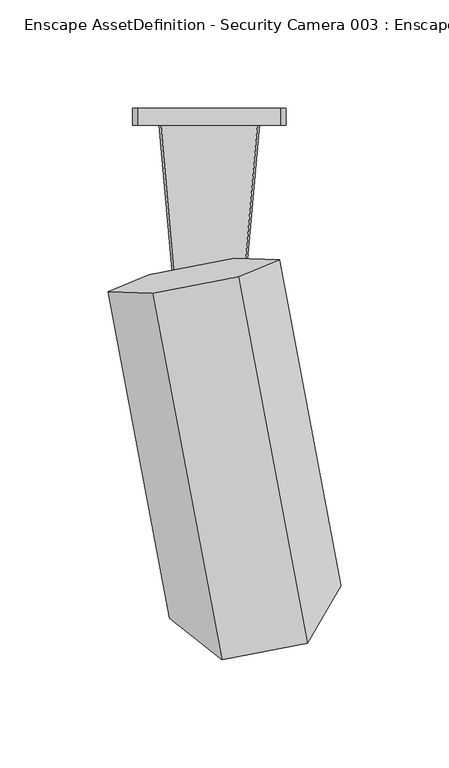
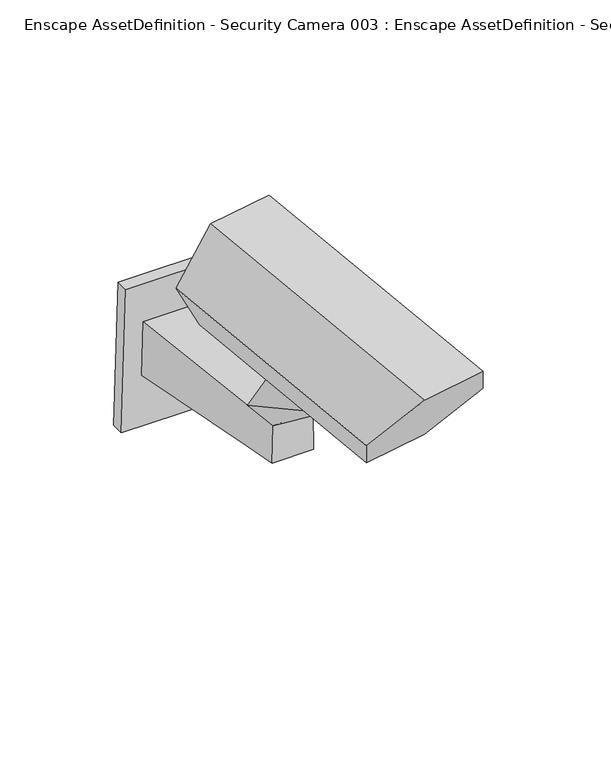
"""IFC4 building model written with IfcOpenShell, lengths in millimetres: geographic element geometry, Enscape AssetDefinition - Security Camera 003 : Enscape AssetDefinition - Security Camera 003."""

from ifc_helpers import new_model, si_unit, origin, place, context, project, spatial, triangles, source, transform, mapped, element, save


def enscape_assetdefinition_security_camera_003_enscape_78e4a898(model_context):
    return source(origin(), model_context, "Body", "Tessellation", [
        triangles([(-35.4919992, 0.0, -43.4640031), (-32.8489987, 0.0, 47.2619998), (32.8489987, 0.0, 47.2619998), (35.4919992, 0.0, -43.4640031), (32.8489987, -7.9039995, 47.2619998), (35.4919992, -7.9039995, -43.4640031), (-32.8489987, -7.9039995, 47.2619998), (-35.4919992, -7.9039995, -43.4640031), (-22.2799991, -7.9039995, 22.9959982), (22.2799991, -7.9039995, 22.9959982), (23.2640006, -7.9039995, -10.7979998), (14.041, -103.2999992, 24.382001), (-23.2640006, -7.9039995, -10.7979998), (14.6609999, -103.2999992, -1.269), (-14.6609999, -103.2999992, -1.269), (-14.041, -103.2999992, 24.382001), (-12.5590002, -126.6119938, 1.0600001), (12.0270003, -126.6119938, 24.7209997), (12.5590002, -126.6119938, 1.0600001), (14.2480005, -120.1379976, 59.044997), (-12.0270003, -126.6119938, 24.7209997), (-2.5080001, -164.0210021, 52.5530013), (20.9479992, -158.6879883, 52.5530013), (-13.1350006, -126.3629901, 59.044997), (21.2750005, -227.989009, 80.1599963), (60.8419985, -220.4849975, 80.1229982), (13.4929991, -77.9009954, 134.0669984), (32.4359993, -69.8860004, 99.4430035), (11.8050003, -69.3409982, 64.859999), (36.6739992, -201.3089878, 47.6420002), (-26.0810003, -85.3710063, 134.1080024), (45.4429975, -247.1650005, 112.6409988), (5.876, -254.6679946, 112.6789961), (-7.138, -77.3560068, 99.4839985), (-2.894, -208.812, 47.6800021), (-18.2930002, -235.492003, 80.1979936), (-27.7689991, -76.8110001, 64.9020023), (-46.7120016, -84.8259996, 99.5260017)], [[36, 25, 33], [38, 36, 33], [37, 36, 38], [37, 35, 36], [35, 25, 36], [29, 35, 37], [34, 37, 38], [34, 29, 37], [34, 38, 31], [38, 33, 31], [31, 33, 32], [33, 25, 32], [34, 31, 27], [31, 32, 27], [34, 27, 28], [34, 28, 29], [29, 30, 35], [28, 30, 29], [30, 25, 35], [27, 26, 28], [27, 32, 26], [28, 26, 30], [32, 25, 26], [26, 25, 30], [12, 16, 24], [16, 22, 24], [12, 24, 20], [20, 24, 22], [20, 22, 23], [16, 21, 22], [21, 23, 22], [18, 20, 23], [18, 12, 20], [21, 18, 23], [17, 18, 21], [16, 17, 21], [17, 19, 18], [14, 18, 19], [14, 12, 18], [15, 19, 17], [15, 14, 19], [16, 15, 17], [9, 15, 16], [9, 13, 15], [13, 14, 15], [13, 11, 14], [11, 12, 14], [10, 16, 12], [10, 9, 16], [11, 10, 12], [9, 10, 5], [9, 5, 7], [13, 9, 7], [11, 13, 8], [13, 7, 8], [10, 6, 5], [10, 11, 6], [11, 8, 6], [4, 5, 6], [3, 7, 5], [4, 3, 5], [3, 2, 7], [2, 8, 7], [2, 1, 8], [1, 6, 8], [1, 4, 6], [1, 3, 4], [1, 2, 3]]),
    ])


if __name__ == "__main__":
    model = new_model("IFC4")
    model_context = context("Model", 3, world=origin())
    ifc_project = project(units=[si_unit("LENGTHUNIT", "METRE", prefix="MILLI")], contexts=[model_context])
    site = spatial("IfcSite", under=ifc_project)
    building = spatial("IfcBuilding", under=site)
    placement = place(None, origin())
    enscape_assetdefinition_security_camera_003_enscape_shape = enscape_assetdefinition_security_camera_003_enscape_78e4a898(model_context)
    element("IfcGeographicElement", 1, ObjectType="Enscape AssetDefinition - Security Camera 003 : Enscape AssetDefinition - Security Camera 003", at=placement, inside=building, context=model_context, shape_type="MappedRepresentation", body=[
        mapped(enscape_assetdefinition_security_camera_003_enscape_shape, transform((0.0, 0.0, 0.0), x_axis=(1.0, 0.0, 0.0), y_axis=(0.0, 1.0, 0.0), z_axis=(0.0, 0.0, 1.0))),
    ])
    save(model, "model.ifc")
